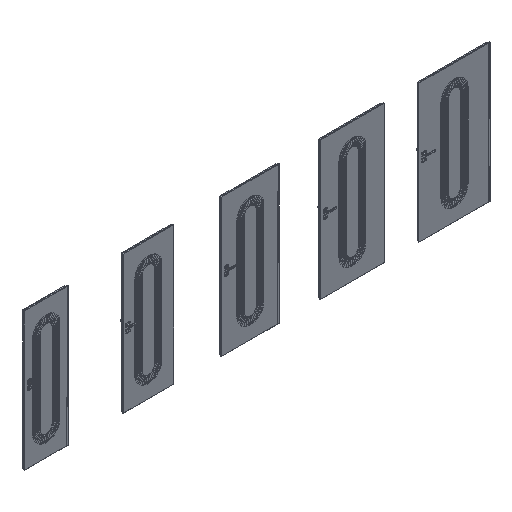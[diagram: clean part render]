
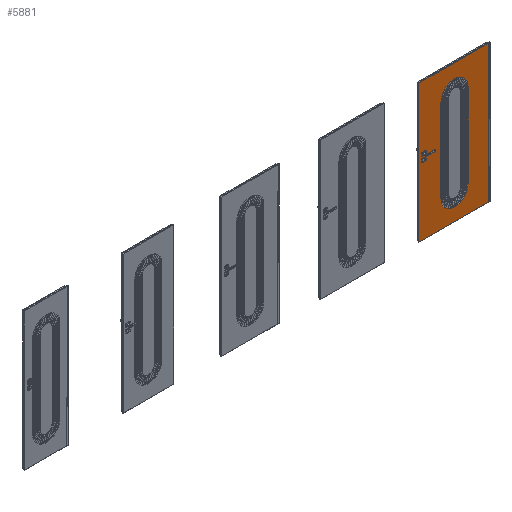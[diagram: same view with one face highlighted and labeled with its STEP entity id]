
A CAD part, isometric view. The second image highlights one B-rep face of the part: STEP entity #5881.
In plain terms, the highlighted planar face has unit normal (0, -1, 0).
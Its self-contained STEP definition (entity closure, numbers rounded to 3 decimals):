
#5881=ADVANCED_FACE('',(#9457,#9458),#6865,.F.);
#6865=PLANE('',#36886);
#8761=CIRCLE('',#36884,199.);
#8762=CIRCLE('',#36885,199.);
#9457=FACE_BOUND('',#11409,.T.);
#9458=FACE_BOUND('',#11410,.T.);
#11409=EDGE_LOOP('',(#19513,#19514,#19515,#19516));
#11410=EDGE_LOOP('',(#19517,#19518,#19519,#19520));
#19513=ORIENTED_EDGE('',*,*,#27997,.T.);
#19514=ORIENTED_EDGE('',*,*,#27998,.T.);
#19515=ORIENTED_EDGE('',*,*,#27999,.F.);
#19516=ORIENTED_EDGE('',*,*,#28000,.F.);
#19517=ORIENTED_EDGE('',*,*,#28001,.F.);
#19518=ORIENTED_EDGE('',*,*,#28002,.F.);
#19519=ORIENTED_EDGE('',*,*,#28003,.F.);
#19520=ORIENTED_EDGE('',*,*,#28004,.T.);
#23629=VERTEX_POINT('',#61886);
#23630=VERTEX_POINT('',#61887);
#23631=VERTEX_POINT('',#61889);
#23632=VERTEX_POINT('',#61891);
#23633=VERTEX_POINT('',#61894);
#23634=VERTEX_POINT('',#61895);
#23635=VERTEX_POINT('',#61897);
#23636=VERTEX_POINT('',#61899);
#27997=EDGE_CURVE('',#23629,#23630,#30767,.T.);
#27998=EDGE_CURVE('',#23630,#23631,#30768,.T.);
#27999=EDGE_CURVE('',#23632,#23631,#30769,.T.);
#28000=EDGE_CURVE('',#23629,#23632,#30770,.T.);
#28001=EDGE_CURVE('',#23633,#23634,#8761,.T.);
#28002=EDGE_CURVE('',#23635,#23633,#30771,.T.);
#28003=EDGE_CURVE('',#23636,#23635,#8762,.T.);
#28004=EDGE_CURVE('',#23636,#23634,#30772,.T.);
#30767=LINE('',#61885,#33037);
#30768=LINE('',#61888,#33038);
#30769=LINE('',#61890,#33039);
#30770=LINE('',#61892,#33040);
#30771=LINE('',#61896,#33041);
#30772=LINE('',#61900,#33042);
#33037=VECTOR('',#46334,1.);
#33038=VECTOR('',#46335,1.);
#33039=VECTOR('',#46336,1.);
#33040=VECTOR('',#46337,1.);
#33041=VECTOR('',#46340,1.);
#33042=VECTOR('',#46343,1.);
#36884=AXIS2_PLACEMENT_3D('',#61893,#46338,#46339);
#36885=AXIS2_PLACEMENT_3D('',#61898,#46341,#46342);
#36886=AXIS2_PLACEMENT_3D('',#61901,#46344,#46345);
#46334=DIRECTION('',(0.,0.,-1.));
#46335=DIRECTION('',(1.,0.,0.));
#46336=DIRECTION('',(0.,0.,-1.));
#46337=DIRECTION('',(1.,0.,0.));
#46338=DIRECTION('',(0.,-1.,0.));
#46339=DIRECTION('',(0.,0.,-1.));
#46340=DIRECTION('',(0.,0.,1.));
#46341=DIRECTION('',(0.,-1.,0.));
#46342=DIRECTION('',(0.,0.,-1.));
#46343=DIRECTION('',(0.,0.,1.));
#46344=DIRECTION('',(0.,1.,0.));
#46345=DIRECTION('',(-1.,0.,0.));
#61885=CARTESIAN_POINT('',(5478.,-39.3,2030.));
#61886=CARTESIAN_POINT('',(5478.,-39.3,2030.));
#61887=CARTESIAN_POINT('',(5478.,-39.3,2.));
#61888=CARTESIAN_POINT('',(5678.,-39.3,2.));
#61889=CARTESIAN_POINT('',(6522.,-39.3,2.));
#61890=CARTESIAN_POINT('',(6522.,-39.3,2030.));
#61891=CARTESIAN_POINT('',(6522.,-39.3,2030.));
#61892=CARTESIAN_POINT('',(5678.,-39.3,2030.));
#61893=CARTESIAN_POINT('',(6000.,-39.3,1623.));
#61894=CARTESIAN_POINT('',(6199.,-39.3,1623.));
#61895=CARTESIAN_POINT('',(5801.,-39.3,1623.));
#61896=CARTESIAN_POINT('',(6199.,-39.3,394.));
#61897=CARTESIAN_POINT('',(6199.,-39.3,394.));
#61898=CARTESIAN_POINT('',(6000.,-39.3,394.));
#61899=CARTESIAN_POINT('',(5801.,-39.3,394.));
#61900=CARTESIAN_POINT('',(5801.,-39.3,394.));
#61901=CARTESIAN_POINT('',(5678.,-39.3,2030.));
